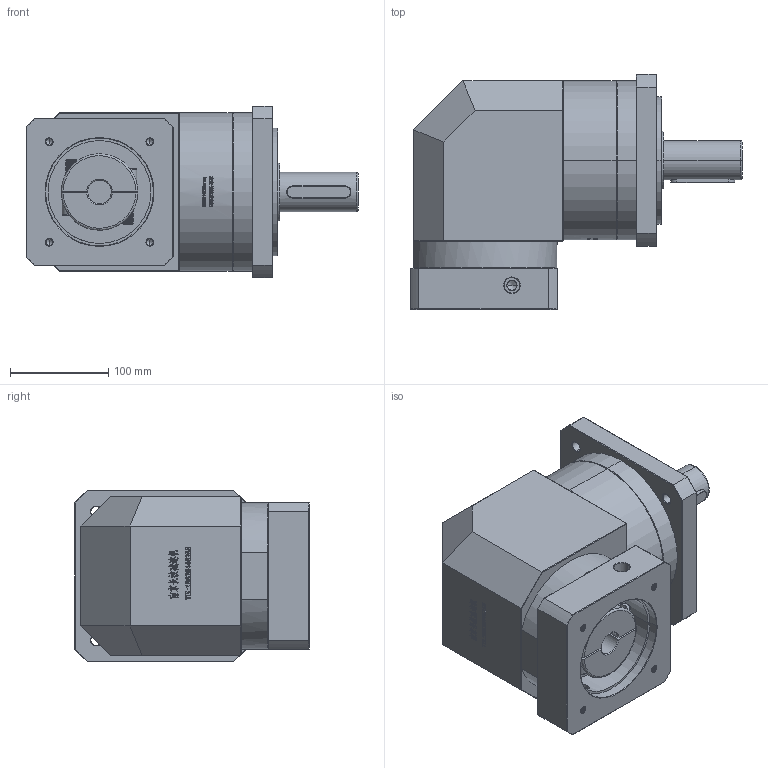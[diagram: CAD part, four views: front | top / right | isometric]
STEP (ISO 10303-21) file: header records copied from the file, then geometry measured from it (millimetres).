
FILE_DESCRIPTION (( 'STEP AP214' ), '1' );
FILE_NAME ('ZFR160A-D40-L1-24-110-145-M8.step', '2023-03-22T11:42:49', ( '' ), ( '' ), 'SwSTEP 2.0', 'SolidWorks 2016', '' );
FILE_SCHEMA (( 'AUTOMOTIVE_DESIGN' ));
Length unit declared in the file: millimetre
Products named in the file (1): ZFR160A-D40-L1-24-110-145-M8
Bounding box: 338.7 x 239.5 x 175 mm (x, y, z)
Volume: 6594281.8 mm3; surface area: 432140.2 mm2
Topology: 6 solids, 6 shells, 2542 faces, 6679 edges, 4290 vertices
Faces by surface type: plane 1275, bspline 500, cylinder 438, cone 307, torus 22
Entity records: 144757 total; most frequent: CARTESIAN_POINT 58686, ORIENTED_EDGE 13298, DIRECTION 10058, EDGE_CURVE 6649, VERTEX_POINT 4290, LINE 4178, VECTOR 4178, AXIS2_PLACEMENT_3D 2940
